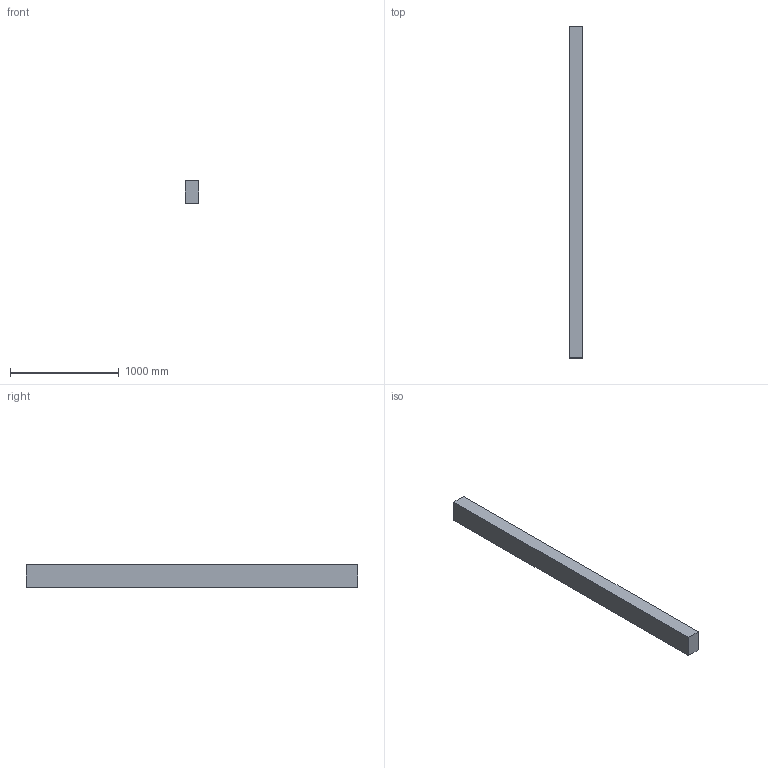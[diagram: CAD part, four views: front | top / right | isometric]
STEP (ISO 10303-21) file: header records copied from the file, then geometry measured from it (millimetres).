
FILE_DESCRIPTION(/* description */ (''),/* implementation_level */ '2;1');
FILE_NAME(/* name */ '5x8x120',/* time_stamp */ '2024-09-20T11:46:45-05:00',/* author */ (''),/* organization */ (''),/* preprocessor_version */ 'ST-DEVELOPER v19.2',/* originating_system */ 'Rhino 8.5',/* authorisation */ '');
FILE_SCHEMA (('CONFIG_CONTROL_DESIGN'));
Length unit declared in the file: inch
Products named in the file (1): Document
Bounding box: 127 x 3048 x 203.2 mm (x, y, z)
Volume: 78657907.2 mm3; surface area: 2064512 mm2
Topology: 1 solids, 1 shells, 6 faces, 12 edges, 8 vertices
Faces by surface type: plane 6
Entity records: 226 total; most frequent: CARTESIAN_POINT 40, ORIENTED_EDGE 24, EDGE_CURVE 12, B_SPLINE_CURVE_WITH_KNOTS 12, DIRECTION 10, VERTEX_POINT 8, AXIS2_PLACEMENT_3D 8, ORGANIZATION 7
